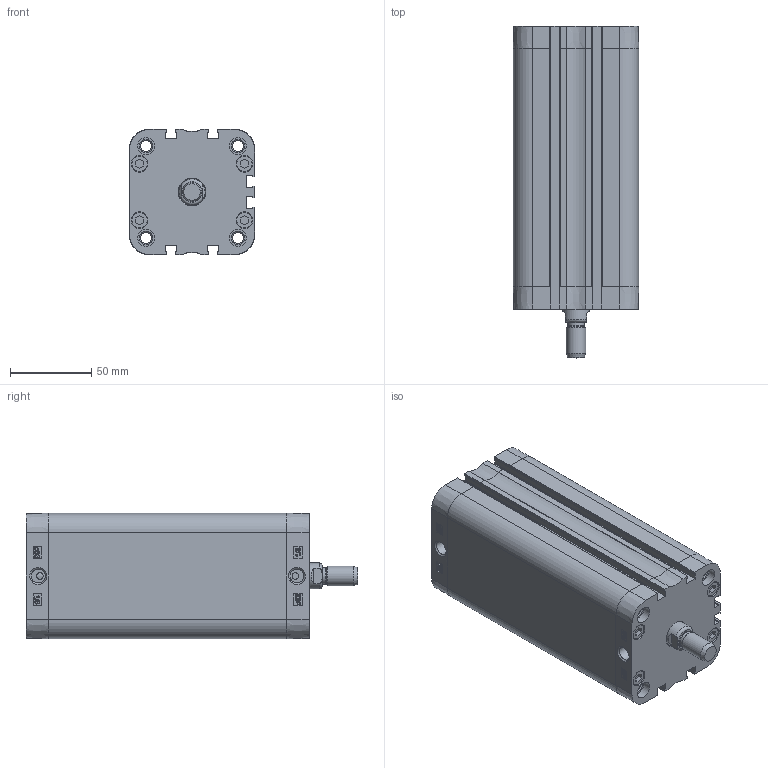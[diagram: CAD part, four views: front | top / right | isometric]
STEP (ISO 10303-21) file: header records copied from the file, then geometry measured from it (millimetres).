
FILE_DESCRIPTION((''),'2;1');
FILE_NAME('T:\Archivio Inventor\- CATALOGHI 2012\SERIE P - NUOVA\PDM\PDM063\PDM063.---.GS.M\PDM063.125.GS.M.stp','2013-02-04T09:31:39',('Administrator'),(''),'Autodesk Inventor 2012','Autodesk Inventor 2012','');
FILE_SCHEMA(('CONFIG_CONTROL_DESIGN'));
Length unit declared in the file: millimetre
Products named in the file (1): PDM063.125.GS.M
Bounding box: 77 x 204 x 77 mm (x, y, z)
Volume: 405670.5 mm3; surface area: 157996.5 mm2
Topology: 1 solids, 5 shells, 824 faces, 1993 edges, 1252 vertices
Faces by surface type: plane 346, bspline 218, cylinder 142, torus 55, cone 45, sphere 18
Full cylindrical faces by diameter (mm): 4 x2, 6.3 x4, 6.647 x8, 8.047 x4, 8.566 x2, 9.8 x8, 10 x1, 10.3 x8, 10.5 x8, 12 x2, 16 x1, 16.5 x1, 63 x1, 65.4 x1, 65.6 x1
Entity records: 27356 total; most frequent: CARTESIAN_POINT 9106, ORIENTED_EDGE 3744, DIRECTION 3031, EDGE_CURVE 1872, VERTEX_POINT 1231, AXIS2_PLACEMENT_3D 1026, EDGE_LOOP 1003, VECTOR 979
